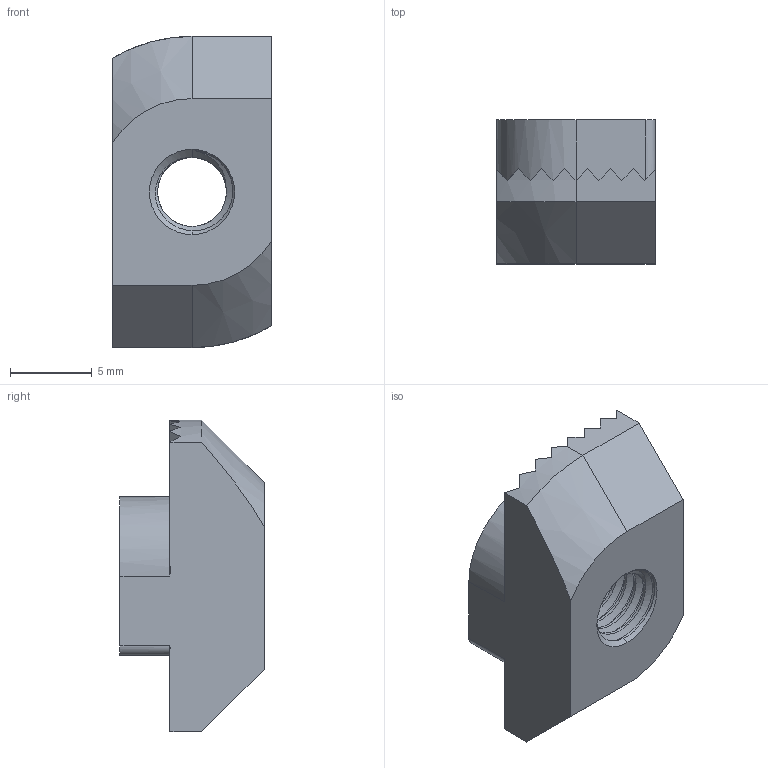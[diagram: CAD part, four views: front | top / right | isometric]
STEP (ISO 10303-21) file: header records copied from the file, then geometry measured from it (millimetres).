
FILE_DESCRIPTION (( 'STEP AP203' ), '1' );
FILE_NAME ('2008.010.002.STEP', '2023-05-24T06:58:26', ( '' ), ( '' ), 'SwSTEP 2.0', 'SolidWorks 2022', '' );
FILE_SCHEMA (( 'CONFIG_CONTROL_DESIGN' ));
Length unit declared in the file: millimetre
Products named in the file (1): 2008.010.002
Bounding box: 9.7 x 8.8 x 19 mm (x, y, z)
Volume: 967.3 mm3; surface area: 910.8 mm2
Topology: 1 solids, 1 shells, 73 faces, 207 edges, 136 vertices
Faces by surface type: plane 38, cylinder 26, cone 6, bspline 3
Entity records: 5507 total; most frequent: CARTESIAN_POINT 3768, ORIENTED_EDGE 414, DIRECTION 279, EDGE_CURVE 207, VERTEX_POINT 136, VECTOR 109, LINE 109, AXIS2_PLACEMENT_3D 85
